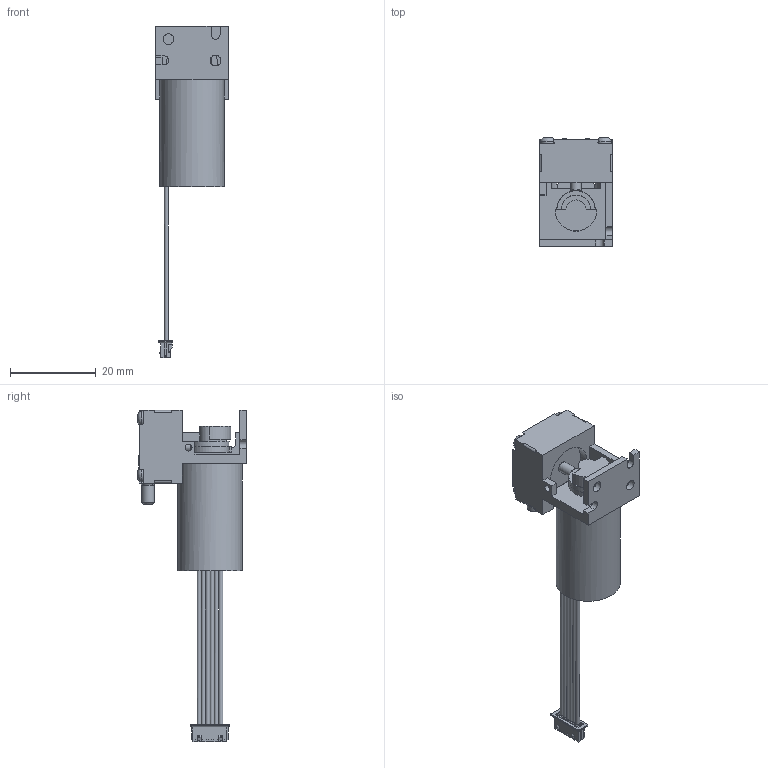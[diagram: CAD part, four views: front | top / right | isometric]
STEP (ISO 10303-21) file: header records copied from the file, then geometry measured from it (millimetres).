
FILE_DESCRIPTION (( 'STEP AP203' ), '1' );
FILE_NAME ('20020434-18.STEP', '2019-07-24T07:20:05', ( 'admin' ), ( 'Gardner Denver' ), 'SwSTEP 2.0', 'SolidWorks 2018', '' );
FILE_SCHEMA (( 'CONFIG_CONTROL_DESIGN' ));
Length unit declared in the file: millimetre
Products named in the file (1): 20020434-18
Bounding box: 17 x 25.4 x 77.45 mm (x, y, z)
Volume: 8523.5 mm3; surface area: 5106 mm2
Topology: 1 solids, 2 shells, 484 faces, 1355 edges, 847 vertices
Faces by surface type: plane 410, cylinder 42, bspline 14, torus 12, cone 6
Full cylindrical faces by diameter (mm): 1 x6, 1.6 x1, 2.5 x3, 3 x2, 3.4 x4, 4.7 x1, 6.96 x2, 11.9 x1, 15 x1
Entity records: 15289 total; most frequent: CARTESIAN_POINT 3097, ORIENTED_EDGE 2590, DIRECTION 2339, EDGE_CURVE 1295, LINE 1131, VECTOR 1131, VERTEX_POINT 827, AXIS2_PLACEMENT_3D 604
